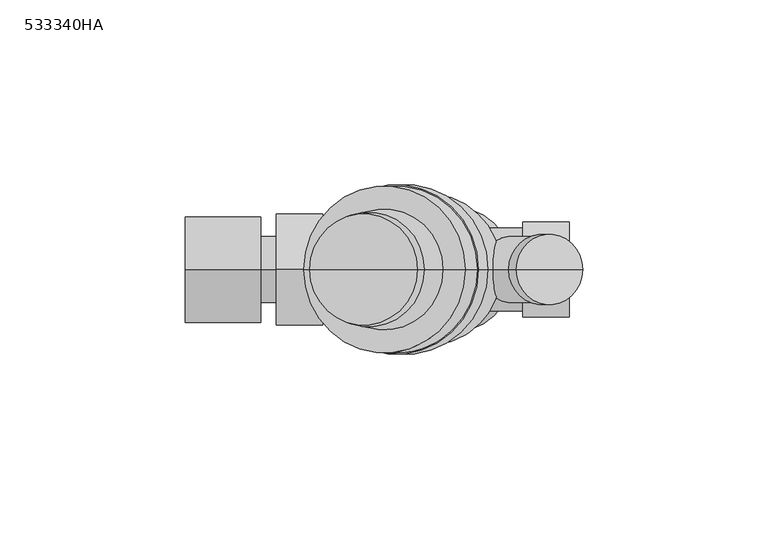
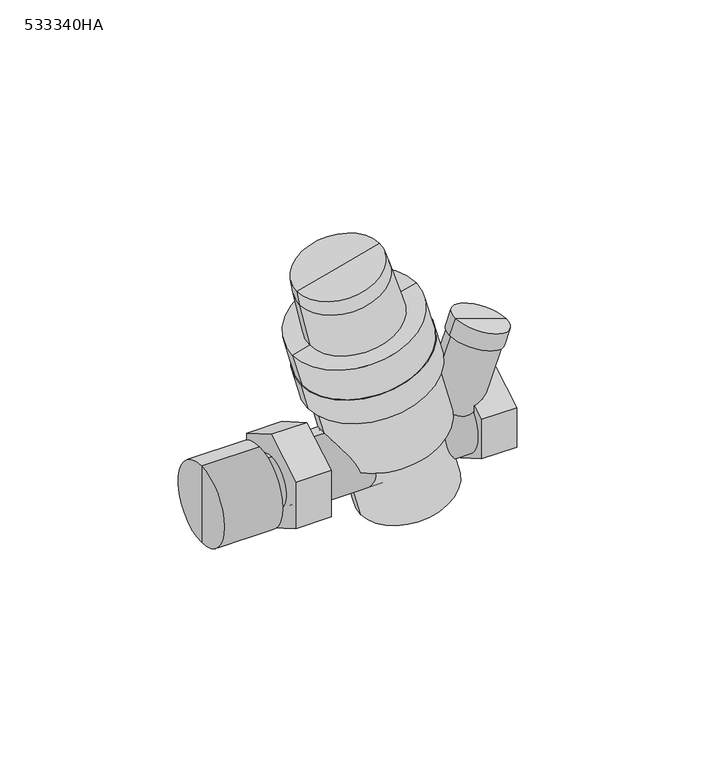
"""IFC4 building model written with IfcOpenShell, lengths in millimetres: valve geometry, Plumbing_Valves_Caleffi_Pressure_ Reducing_ Valve-533HA-DN15_DN20 : 533340HA."""

import ifcopenshell
import ifcopenshell.guid

model = None  # the IFC model being written
_history = None  # IfcOwnerHistory: only IFC2X3 demands one
_inside = {}  # id of a spatial element -> (the spatial element, [elements in it])
_under = {}  # id of a project, library or spatial element -> (it, [spatial elements below it])
_declared = {}  # id of a project -> (the project, [libraries it declares])
_typed = {}  # id of a type object -> (the type object, [elements of that type])
_made_of = {}  # id of a material, layer set ... -> (it, [elements and type objects made of it])


def new_model(schema):
    """Start an empty IFC model of exactly this schema.

    Asked for "IFC4X3", IfcOpenShell would pick the latest addendum, in which some entities
    have other attributes; the version numbers below select the first issue.
    IFC2X3 requires an IfcOwnerHistory on every rooted entity: one is made here for all.
    """
    global model, _history
    if schema == "IFC4X3":
        model = ifcopenshell.file(schema_version=(4, 3, 0, 0))
    else:
        model = ifcopenshell.file(schema=schema)
    _inside.clear()
    _under.clear()
    _declared.clear()
    _typed.clear()
    _made_of.clear()
    _history = None
    if model.schema == "IFC2X3":
        org = make("IfcOrganization", Name="unknown")
        user = make(
            "IfcPersonAndOrganization",
            ThePerson=make("IfcPerson", FamilyName="unknown"),
            TheOrganization=org,
        )
        app = make(
            "IfcApplication",
            ApplicationDeveloper=org,
            Version="unknown",
            ApplicationFullName="unknown",
            ApplicationIdentifier="unknown",
        )
        _history = make(
            "IfcOwnerHistory",
            OwningUser=user,
            OwningApplication=app,
            ChangeAction="ADDED",
            CreationDate=0,
        )
    return model


def make(cls, **values):
    """One entity of the class cls with the attributes given. An attribute that is None is left unset."""
    return model.create_entity(
        cls, **{name: value for name, value in values.items() if value is not None}
    )


def rooted(cls, **values):
    """An entity with a GlobalId (a new one), such as an element, a storey or a relation."""
    return make(cls, GlobalId=ifcopenshell.guid.new(), OwnerHistory=_history, **values)


def si_unit(unit_type, name, prefix=None):
    """IfcSIUnit, for example si_unit("LENGTHUNIT", "METRE", prefix="MILLI")."""
    return make("IfcSIUnit", UnitType=unit_type, Prefix=prefix, Name=name)


def assignment(units):
    """IfcUnitAssignment: the units of a project."""
    return None if units is None else make("IfcUnitAssignment", Units=units)


def point(xyz):
    """IfcCartesianPoint."""
    return None if xyz is None else make("IfcCartesianPoint", Coordinates=xyz)


def direction(xyz):
    """IfcDirection."""
    return None if xyz is None else make("IfcDirection", DirectionRatios=xyz)


def frame(location, z_axis=None, x_axis=None):
    """IfcAxis2Placement3D, a coordinate frame: its origin and axes. An axis left out is left unset."""
    return make(
        "IfcAxis2Placement3D",
        Location=point(location),
        Axis=direction(z_axis),
        RefDirection=direction(x_axis),
    )


def origin():
    """The frame at (0, 0, 0) with its axes left unset."""
    return frame((0.0, 0.0, 0.0))


def place(relative_to, where):
    """IfcLocalPlacement: puts the frame where relative to a parent placement (None: the world)."""
    return make(
        "IfcLocalPlacement", PlacementRelTo=relative_to, RelativePlacement=where
    )


def context(
    kind, dimensions, precision=None, world=None, true_north=None, identifier=None
):
    """IfcGeometricRepresentationContext, for example the 3D "Model" context."""
    return make(
        "IfcGeometricRepresentationContext",
        ContextIdentifier=identifier,
        ContextType=kind,
        CoordinateSpaceDimension=dimensions,
        Precision=precision,
        WorldCoordinateSystem=world,
        TrueNorth=true_north,
    )


def project(units=None, contexts=None):
    """IfcProject with its units and contexts."""
    return rooted(
        "IfcProject",
        Name="project",
        RepresentationContexts=contexts,
        UnitsInContext=assignment(units),
    )


def spatial(cls, under=None, at=None, **own):
    """A site, building, storey or space (cls), placed at a placement, below another one or the project."""
    s = rooted(cls, ObjectPlacement=at, **own)
    if under is not None:
        _under.setdefault(under.id(), (under, []))[1].append(s)
    return s


def polyline(points):
    """IfcPolyline through the points."""
    return make("IfcPolyline", Points=[point(p) for p in points])


def circle_curve(where, radius):
    """IfcCircle in the frame where."""
    return make("IfcCircle", Position=where, Radius=radius)


def outline(outer, holes=None, kind="AREA"):
    """IfcArbitraryClosedProfileDef: a profile drawn as a closed curve; with holes, ...WithVoids."""
    if holes is None:
        return make("IfcArbitraryClosedProfileDef", ProfileType=kind, OuterCurve=outer)
    return make(
        "IfcArbitraryProfileDefWithVoids",
        ProfileType=kind,
        OuterCurve=outer,
        InnerCurves=holes,
    )


def extrude(swept, where, along, depth):
    """IfcExtrudedAreaSolid: the profile swept, set in the frame where, extruded along a direction by depth."""
    return make(
        "IfcExtrudedAreaSolid",
        SweptArea=swept,
        Position=where,
        ExtrudedDirection=direction(along),
        Depth=depth,
    )


def shape(context_of_items, identifier, shape_type, items):
    """IfcShapeRepresentation: the items that make up one representation, for example the "Body"."""
    return make(
        "IfcShapeRepresentation",
        ContextOfItems=context_of_items,
        RepresentationIdentifier=identifier,
        RepresentationType=shape_type,
        Items=items,
    )


def source(mapping_origin, context_of_items, identifier, shape_type, items):
    """IfcRepresentationMap: a shape defined once, which mapped items show again and again."""
    return make(
        "IfcRepresentationMap",
        MappingOrigin=mapping_origin,
        MappedRepresentation=shape(context_of_items, identifier, shape_type, items),
    )


def transform(
    local_origin,
    x_axis=None,
    y_axis=None,
    z_axis=None,
    scale=None,
    scale2=None,
    scale3=None,
    uniform=True,
):
    """IfcCartesianTransformationOperator3D, or its non-uniform kind. x_axis, y_axis, z_axis: its Axis1, 2, 3."""
    if uniform:
        return make(
            "IfcCartesianTransformationOperator3D",
            Axis1=direction(x_axis),
            Axis2=direction(y_axis),
            LocalOrigin=point(local_origin),
            Scale=scale,
            Axis3=direction(z_axis),
        )
    return make(
        "IfcCartesianTransformationOperator3DnonUniform",
        Axis1=direction(x_axis),
        Axis2=direction(y_axis),
        LocalOrigin=point(local_origin),
        Scale=scale,
        Axis3=direction(z_axis),
        Scale2=scale2,
        Scale3=scale3,
    )


def mapped(mapping_source, mapping_target):
    """IfcMappedItem: shows the shape of a source again, moved by a transform."""
    return make(
        "IfcMappedItem", MappingSource=mapping_source, MappingTarget=mapping_target
    )


def made_of(thing, what):
    """Note that an element or type object is made of a material, layer set ...; save() writes the relation."""
    if what is not None:
        _made_of.setdefault(what.id(), (what, []))[1].append(thing)
    return thing


def element(
    cls,
    number,
    at=None,
    inside=None,
    cuts=None,
    type_object=None,
    material=None,
    context=None,
    identifier="Body",
    shape_type=None,
    held_by="IfcProductDefinitionShape",
    body=None,
    shapes=None,
    **own,
):
    """One element of the class cls, such as IfcWall. Its Tag is "e" and its number.

    at: its placement. inside: the storey or other place that contains it. cuts: it is an
    opening in that element (IfcRelVoidsElement). A single representation is given by context,
    identifier, shape_type and body (its items); several are given by shapes. held_by: the class
    of the entity that holds the representations. save() writes the other relations.
    """
    e = rooted(cls, Tag="e%d" % number, ObjectPlacement=at, **own)
    if body is not None:
        shapes = [shape(context, identifier, shape_type, body)]
    if shapes is not None:
        e.Representation = make(held_by, Representations=shapes)
    if inside is not None:
        _inside.setdefault(inside.id(), (inside, []))[1].append(e)
    if cuts is not None:
        rooted(
            "IfcRelVoidsElement", RelatingBuildingElement=cuts, RelatedOpeningElement=e
        )
    if type_object is not None:
        _typed.setdefault(type_object.id(), (type_object, []))[1].append(e)
    return made_of(e, material)


def aggregate(whole, parts):
    """IfcRelAggregates: a whole, such as a stair, and the parts it consists of."""
    return rooted("IfcRelAggregates", RelatingObject=whole, RelatedObjects=parts)


def save(model, path):
    """Write the relations noted so far, then the file.

    IfcRelAggregates (storeys below a building ...), IfcRelContainedInSpatialStructure (elements
    in a storey), IfcRelDefinesByType, IfcRelAssociatesMaterial and IfcRelDeclares: one each for
    every whole, place, type object, material and project.
    """
    for whole, parts in _under.values():
        aggregate(whole, parts)
    for where, things in _inside.values():
        rooted(
            "IfcRelContainedInSpatialStructure",
            RelatedElements=things,
            RelatingStructure=where,
        )
    for kind, things in _typed.values():
        rooted("IfcRelDefinesByType", RelatedObjects=things, RelatingType=kind)
    for what, things in _made_of.values():
        rooted("IfcRelAssociatesMaterial", RelatedObjects=things, RelatingMaterial=what)
    for by, libraries in _declared.values():
        rooted("IfcRelDeclares", RelatingContext=by, RelatedDefinitions=libraries)
    model.write(path)


def plane_surface(at):
    """IfcPlane: the flat surface through the origin of the frame at, square to its z axis."""
    return make("IfcPlane", Position=at)


def cylinder_surface(at, radius):
    """IfcCylindricalSurface: all points at the distance radius from the z axis of the frame at."""
    return make("IfcCylindricalSurface", Position=at, Radius=radius)


def revolved_surface(curve, axis_point, axis_direction):
    """IfcSurfaceOfRevolution: the curve turned about the line through axis_point along axis_direction."""
    return make(
        "IfcSurfaceOfRevolution",
        SweptCurve=make("IfcArbitraryOpenProfileDef", ProfileType="CURVE", Curve=curve),
        AxisPosition=make("IfcAxis1Placement", Location=point(axis_point), Axis=direction(axis_direction)),
    )


def advanced_brep(points, edges, surfaces, faces):
    """IfcAdvancedBrep: a solid bounded by faces that lie on surfaces and meet in shared edges.

    An edge is (start, end): straight between two places in points (the first is 0);
    or (start, end, curve); or (start, end, curve, False) where it runs against its curve.
    A face is (place in surfaces, loops), or (place, loops, False) where it looks against
    its surface's normal. A loop lists edges by number (the first is 1), with a minus sign
    where the edge is run from its end to its start. The first loop is the outer one.
    """
    corners = [point(p) for p in points]
    vertices = [make("IfcVertexPoint", VertexGeometry=c) for c in corners]
    made = []
    for start, end, *more in edges:
        made.append(
            make(
                "IfcEdgeCurve",
                EdgeStart=vertices[start],
                EdgeEnd=vertices[end],
                EdgeGeometry=more[0] if more else make("IfcPolyline", Points=[corners[start], corners[end]]),
                SameSense=more[1] if len(more) > 1 else True,
            )
        )
    hull = []
    for where, loops, *sense in faces:
        bounds = []
        for j, loop in enumerate(loops):
            ring = [make("IfcOrientedEdge", EdgeElement=made[abs(k) - 1], Orientation=k > 0) for k in loop]
            bounds.append(
                make(
                    "IfcFaceOuterBound" if j == 0 else "IfcFaceBound",
                    Bound=make("IfcEdgeLoop", EdgeList=ring),
                    Orientation=True,
                )
            )
        hull.append(make("IfcAdvancedFace", Bounds=bounds, FaceSurface=surfaces[where], SameSense=sense[0] if sense else True))
    return make("IfcAdvancedBrep", Outer=make("IfcClosedShell", CfsFaces=hull))


def valve_533340ha_4125cb04(model_context):
    return source(origin(), model_context, "Body", "SolidModel", [
        advanced_brep(
        [(-46.8, 0.0, -8.95), (-46.8, 0.0, 8.95), (-36.6, 0.0, 8.95), (-36.6, 0.0, -8.95), (-46.8, 0.0, -14.25), (-46.8, 0.0, 14.25), (-67.1, 0.0, -14.25), (-67.1, 0.0, 14.25), (-67.1, 0.0, 0.0), (-36.6, 0.0, 0.0)],
        [
            (0, 1, circle_curve(frame((-46.8, 0.0, 0.0), z_axis=(1.0, 0.0, 0.0), x_axis=(0.0, 0.0, 1.0)), 8.95)),
            (1, 2),
            (2, 3, circle_curve(frame((-36.6, 0.0, 0.0), z_axis=(-1.0, 0.0, 0.0), x_axis=(0.0, 0.0, 1.0)), 8.95)),
            (3, 0),
            (1, 0, circle_curve(frame((-46.8, 0.0, 0.0), z_axis=(1.0, 0.0, 0.0), x_axis=(0.0, 0.0, 1.0)), 8.95)),
            (3, 2, circle_curve(frame((-36.6, 0.0, 0.0), z_axis=(-1.0, 0.0, 0.0), x_axis=(0.0, 0.0, 1.0)), 8.95)),
            (4, 5, circle_curve(frame((-46.8, 0.0, 0.0), z_axis=(1.0, 0.0, 0.0), x_axis=(0.0, 0.0, 1.0)), 14.25)),
            (5, 1),
            (0, 4),
            (5, 4, circle_curve(frame((-46.8, 0.0, 0.0), z_axis=(1.0, 0.0, 0.0), x_axis=(0.0, 0.0, 1.0)), 14.25)),
            (6, 7, circle_curve(frame((-67.1, 0.0, 0.0), z_axis=(1.0, 0.0, 0.0), x_axis=(0.0, 0.0, 1.0)), 14.25)),
            (7, 5),
            (4, 6),
            (7, 6, circle_curve(frame((-67.1, 0.0, 0.0), z_axis=(1.0, 0.0, 0.0), x_axis=(0.0, 0.0, 1.0)), 14.25)),
            (8, 7),
            (6, 8),
            (2, 9),
            (9, 3),
        ],
        [
            cylinder_surface(frame((5.0, 0.0, 0.0), z_axis=(-1.0, 0.0, 0.0), x_axis=(0.0, 0.0, 1.0)), 8.95),
            plane_surface(frame((-46.8, 0.0, 0.0), z_axis=(1.0, 0.0, 0.0), x_axis=(0.0, 0.0, 1.0))),
            cylinder_surface(frame((5.0, 0.0, 0.0), z_axis=(-1.0, 0.0, 0.0), x_axis=(0.0, 0.0, 1.0)), 14.25),
            plane_surface(frame((-67.1, 0.0, 0.0), z_axis=(-1.0, 0.0, 0.0), x_axis=(0.0, 0.0, 1.0))),
            plane_surface(frame((-36.6, 0.0, 0.0), z_axis=(1.0, 0.0, 0.0), x_axis=(0.0, 0.0, 1.0))),
        ],
        [
            (0, [[1, 2, 3, 4]]),
            (0, [[5, -4, 6, -2]]),
            (1, [[7, 8, -1, 9]]),
            (1, [[10, -9, -5, -8]]),
            (2, [[11, 12, -7, 13]]),
            (2, [[14, -13, -10, -12]]),
            (3, [[15, -11, 16]]),
            (3, [[-16, -14, -15]]),
            (4, [[-3, 17, 18]]),
            (4, [[-6, -18, -17]]),
        ],
    ),
        extrude(outline(polyline([(0.0, 17.3205081), (15.0, 8.660254), (15.0, -8.660254), (0.0, -17.3205081), (-15.0, -8.660254), (-15.0, 8.660254), (0.0, 17.3205081)])), frame((-42.6, 0.0, 0.0), z_axis=(1.0, 0.0, 0.0), x_axis=(0.0, 1.0, 0.0)), (0.0, 0.0, 1.0), 12.5),
        extrude(outline(polyline([(0.0, 14.7224319), (12.75, 7.3612159), (12.75, -7.3612159), (0.0, -14.7224319), (-12.75, -7.3612159), (-12.75, 7.3612159), (0.0, 14.7224319)])), frame((23.9, 0.0, 0.0), z_axis=(1.0, 0.0, 0.0), x_axis=(0.0, 1.0, 0.0)), (0.0, 0.0, 1.0), 12.5),
        advanced_brep(
        [(-34.6, 0.0, -11.25), (-34.6, 0.0, 11.25), (23.9, 0.0, 11.25), (23.9, 0.0, -11.25), (-34.6, 0.0, 0.0), (23.9, 0.0, 0.0)],
        [
            (0, 1, circle_curve(frame((-34.6, 0.0, 0.0), z_axis=(1.0, 0.0, 0.0), x_axis=(0.0, 0.0, 1.0)), 11.25)),
            (1, 2),
            (2, 3, circle_curve(frame((23.9, 0.0, 0.0), z_axis=(-1.0, 0.0, 0.0), x_axis=(0.0, 0.0, 1.0)), 11.25)),
            (3, 0),
            (1, 0, circle_curve(frame((-34.6, 0.0, 0.0), z_axis=(1.0, 0.0, 0.0), x_axis=(0.0, 0.0, 1.0)), 11.25)),
            (3, 2, circle_curve(frame((23.9, 0.0, 0.0), z_axis=(-1.0, 0.0, 0.0), x_axis=(0.0, 0.0, 1.0)), 11.25)),
            (4, 1),
            (0, 4),
            (2, 5),
            (5, 3),
        ],
        [
            cylinder_surface(frame((-36.6776223, 0.0, 0.0), z_axis=(-1.0, 0.0, 0.0), x_axis=(0.0, 0.0, 1.0)), 11.25),
            plane_surface(frame((-34.6, 0.0, 0.0), z_axis=(-1.0, 0.0, 0.0), x_axis=(0.0, 0.0, 1.0))),
            plane_surface(frame((23.9, 0.0, 0.0), z_axis=(1.0, 0.0, 0.0), x_axis=(0.0, 0.0, 1.0))),
        ],
        [
            (0, [[1, 2, 3, 4]]),
            (0, [[5, -4, 6, -2]]),
            (1, [[7, -1, 8]]),
            (1, [[-8, -5, -7]]),
            (2, [[-3, 9, 10]]),
            (2, [[-6, -10, -9]]),
        ],
    ),
        advanced_brep(
        [(29.0, 0.0, 29.0), (20.0729201, 0.0, 32.2491914), (37.9270799, 0.0, 25.7508086), (39.9792008, 0.0, 31.3889644), (22.125041, 0.0, 37.8873471), (31.0521209, 0.0, 34.6381557)],
        [
            (0, 1),
            (1, 2, circle_curve(frame((29.0, 0.0, 29.0), z_axis=(-0.34202014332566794, 0.0, -0.9396926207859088), x_axis=(-0.9396926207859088, 0.0, 0.34202014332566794)), 9.5)),
            (2, 0),
            (2, 1, circle_curve(frame((29.0, 0.0, 29.0), z_axis=(-0.34202014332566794, 0.0, -0.9396926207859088), x_axis=(-0.9396926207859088, 0.0, 0.34202014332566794)), 9.5)),
            (3, 4, circle_curve(frame((31.0521209, 0.0, 34.6381557), z_axis=(0.34202014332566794, 0.0, 0.9396926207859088), x_axis=(-0.9396926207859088, 0.0, 0.34202014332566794)), 9.5)),
            (4, 5),
            (5, 3),
            (4, 3, circle_curve(frame((31.0521209, 0.0, 34.6381557), z_axis=(0.34202014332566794, 0.0, 0.9396926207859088), x_axis=(-0.9396926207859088, 0.0, 0.34202014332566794)), 9.5)),
            (1, 4),
            (3, 2),
        ],
        [
            plane_surface(frame((29.0, 0.0, 29.0), z_axis=(-0.34202014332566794, 0.0, -0.9396926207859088), x_axis=(-0.9396926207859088, 0.0, 0.34202014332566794))),
            plane_surface(frame((31.0521209, 0.0, 34.6381557), z_axis=(0.34202014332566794, 0.0, 0.9396926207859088), x_axis=(-0.9396926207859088, 0.0, 0.34202014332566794))),
            cylinder_surface(frame((34.0598055, 0.0, 42.9017015), z_axis=(-0.34202014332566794, 0.0, -0.9396926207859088), x_axis=(-0.9396926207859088, 0.0, 0.34202014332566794)), 9.5),
        ],
        [
            (0, [[1, 2, 3]]),
            (0, [[-3, 4, -1]]),
            (1, [[5, 6, 7]]),
            (1, [[8, -7, -6]]),
            (2, [[-2, 9, -5, 10]]),
            (2, [[-4, -10, -8, -9]]),
        ],
    ),
        advanced_brep(
        [(-10.1974704, 0.0, 38.0574776), (-31.9308015, 0.0, 32.234049), (11.5358607, 0.0, 43.8809061), (-4.5860762, 0.0, 75.0710191), (-33.563851, 0.0, 67.3064477), (-19.0749636, 0.0, 71.1887334), (-2.7313724, 0.0, 70.0810217), (-32.675073, 0.0, 62.0576313), (2.2894681, 0.0, 54.2407673), (-29.1031212, 0.0, 45.8291483), (8.3265046, 0.0, 55.8583863), (-35.1401576, 0.0, 44.2115293)],
        [
            (0, 1),
            (1, 2, circle_curve(frame((-10.1974704, 0.0, 38.0574776), z_axis=(0.2588190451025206, 0.0, -0.9659258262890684), x_axis=(-0.9659258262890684, 0.0, -0.2588190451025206)), 22.5)),
            (2, 0),
            (2, 1, circle_curve(frame((-10.1974704, 0.0, 38.0574776), z_axis=(0.2588190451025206, 0.0, -0.9659258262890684), x_axis=(-0.9659258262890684, 0.0, -0.2588190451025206)), 22.5)),
            (3, 4, circle_curve(frame((-19.0749636, 0.0, 71.1887334), z_axis=(-0.2588190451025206, 0.0, 0.9659258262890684), x_axis=(-0.9659258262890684, 0.0, -0.2588190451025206)), 15.0)),
            (4, 5),
            (5, 3),
            (4, 3, circle_curve(frame((-19.0749636, 0.0, 71.1887334), z_axis=(-0.2588190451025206, 0.0, 0.9659258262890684), x_axis=(-0.9659258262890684, 0.0, -0.2588190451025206)), 15.0)),
            (6, 7, circle_curve(frame((-17.7032227, 0.0, 66.0693265), z_axis=(-0.2588190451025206, 0.0, 0.9659258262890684), x_axis=(-0.9659258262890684, 0.0, -0.2588190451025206)), 15.5)),
            (7, 4),
            (3, 6),
            (7, 6, circle_curve(frame((-17.7032227, 0.0, 66.0693265), z_axis=(-0.2588190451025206, 0.0, 0.9659258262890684), x_axis=(-0.9659258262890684, 0.0, -0.2588190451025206)), 15.5)),
            (8, 9, circle_curve(frame((-13.4068265, 0.0, 50.0349578), z_axis=(-0.2588190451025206, 0.0, 0.9659258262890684), x_axis=(-0.9659258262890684, 0.0, -0.2588190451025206)), 16.25)),
            (9, 7),
            (6, 8),
            (9, 8, circle_curve(frame((-13.4068265, 0.0, 50.0349578), z_axis=(-0.2588190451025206, 0.0, 0.9659258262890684), x_axis=(-0.9659258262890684, 0.0, -0.2588190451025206)), 16.25)),
            (10, 11, circle_curve(frame((-13.4068265, 0.0, 50.0349578), z_axis=(-0.2588190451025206, 0.0, 0.9659258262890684), x_axis=(-0.9659258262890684, 0.0, -0.2588190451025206)), 22.5)),
            (11, 9),
            (8, 10),
            (11, 10, circle_curve(frame((-13.4068265, 0.0, 50.0349578), z_axis=(-0.2588190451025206, 0.0, 0.9659258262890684), x_axis=(-0.9659258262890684, 0.0, -0.2588190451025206)), 22.5)),
            (1, 11),
            (10, 2),
        ],
        [
            plane_surface(frame((-10.1974704, 0.0, 38.0574776), z_axis=(0.2588190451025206, 0.0, -0.9659258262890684), x_axis=(-0.9659258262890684, 0.0, -0.2588190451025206))),
            plane_surface(frame((-19.0749636, 0.0, 71.1887334), z_axis=(-0.2588190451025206, 0.0, 0.9659258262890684), x_axis=(-0.9659258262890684, 0.0, -0.2588190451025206))),
            revolved_surface(polyline([(-33.563851, 0.0, 67.3064477), (-32.675073, 0.0, 62.0576313)]), (-18.1173332, 0.0, 67.6148078), (0.2588190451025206, 0.0, -0.9659258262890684)),
            revolved_surface(polyline([(-32.675073, 0.0, 62.0576313), (-29.1031212, 0.0, 45.8291483)]), (-18.1173332, 0.0, 67.6148078), (0.2588190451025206, 0.0, -0.9659258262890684)),
            plane_surface(frame((-13.4068265, 0.0, 50.0349578), z_axis=(-0.2588190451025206, 0.0, 0.9659258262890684), x_axis=(-0.9659258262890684, 0.0, -0.2588190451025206))),
            cylinder_surface(frame((-18.1173332, 0.0, 67.6148078), z_axis=(0.2588190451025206, 0.0, -0.9659258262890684), x_axis=(-0.9659258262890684, 0.0, -0.2588190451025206)), 22.5),
        ],
        [
            (0, [[1, 2, 3]]),
            (0, [[-3, 4, -1]]),
            (1, [[5, 6, 7]]),
            (1, [[8, -7, -6]]),
            (2, [[9, 10, -5, 11]]),
            (2, [[12, -11, -8, -10]]),
            (3, [[13, 14, -9, 15]]),
            (3, [[16, -15, -12, -14]]),
            (4, [[17, 18, -13, 19]]),
            (4, [[20, -19, -16, -18]]),
            (5, [[-2, 21, -17, 22]]),
            (5, [[-4, -22, -20, -21]]),
        ],
    ),
        advanced_brep(
        [(29.0, 0.0, 29.0), (37.4572336, 0.0, 25.9218187), (20.5427664, 0.0, 32.0781813), (7.9535361, 0.0, -2.5104447), (24.8680033, 0.0, -8.6668073), (16.4107697, 0.0, -5.588626)],
        [
            (0, 1),
            (1, 2, circle_curve(frame((29.0, 0.0, 29.0), z_axis=(0.3420201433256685, 0.0, 0.9396926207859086), x_axis=(0.9396926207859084, 0.0, -0.34202014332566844)), 9.0)),
            (2, 0),
            (2, 1, circle_curve(frame((29.0, 0.0, 29.0), z_axis=(0.3420201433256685, 0.0, 0.9396926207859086), x_axis=(0.9396926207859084, 0.0, -0.34202014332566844)), 9.0)),
            (3, 4, circle_curve(frame((16.4107697, 0.0, -5.588626), z_axis=(-0.3420201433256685, 0.0, -0.9396926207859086), x_axis=(0.9396926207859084, 0.0, -0.34202014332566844)), 9.0)),
            (4, 5),
            (5, 3),
            (4, 3, circle_curve(frame((16.4107697, 0.0, -5.588626), z_axis=(-0.3420201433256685, 0.0, -0.9396926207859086), x_axis=(0.9396926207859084, 0.0, -0.34202014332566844)), 9.0)),
            (1, 4),
            (3, 2),
        ],
        [
            plane_surface(frame((29.0, 0.0, 29.0), z_axis=(0.3420201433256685, 0.0, 0.9396926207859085), x_axis=(0.9396926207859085, 0.0, -0.3420201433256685))),
            plane_surface(frame((16.4107697, 0.0, -5.588626), z_axis=(-0.3420201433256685, 0.0, -0.9396926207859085), x_axis=(0.9396926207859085, 0.0, -0.3420201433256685))),
            cylinder_surface(frame((36.0557835, 0.0, 48.3856058), z_axis=(0.34202014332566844, 0.0, 0.9396926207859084), x_axis=(0.9396926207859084, 0.0, -0.34202014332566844)), 9.0),
        ],
        [
            (0, [[1, 2, 3]]),
            (0, [[-3, 4, -1]]),
            (1, [[5, 6, 7]]),
            (1, [[8, -7, -6]]),
            (2, [[-2, 9, -5, 10]]),
            (2, [[-4, -10, -8, -9]]),
        ],
    ),
        advanced_brep(
        [(5.0728533, 0.0, -18.9321462), (-11.2512932, 0.0, -23.3061881), (21.3969997, 0.0, -14.5581043), (11.8739348, 0.0, 43.9714927), (-32.2688755, 0.0, 32.1434624), (-10.1974704, 0.0, 38.0574776), (14.4621252, 0.0, 34.3122345), (-29.6806851, 0.0, 22.4842041), (12.0473106, 0.0, 33.6651869), (-27.2658705, 0.0, 23.1312517), (18.1295582, 0.0, 10.9659299), (-21.1836229, 0.0, 0.4319948), (14.7971141, 0.0, 10.0730042), (-17.8511788, 0.0, 1.3249205)],
        [
            (0, 1),
            (1, 2, circle_curve(frame((5.0728533, 0.0, -18.9321462), z_axis=(0.2588190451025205, 0.0, -0.9659258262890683), x_axis=(-0.9659258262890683, 0.0, -0.2588190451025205)), 16.9)),
            (2, 0),
            (2, 1, circle_curve(frame((5.0728533, 0.0, -18.9321462), z_axis=(0.2588190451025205, 0.0, -0.9659258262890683), x_axis=(-0.9659258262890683, 0.0, -0.2588190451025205)), 16.9)),
            (3, 4, circle_curve(frame((-10.1974704, 0.0, 38.0574776), z_axis=(-0.2588190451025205, 0.0, 0.9659258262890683), x_axis=(-0.9659258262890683, 0.0, -0.2588190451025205)), 22.85)),
            (4, 5),
            (5, 3),
            (4, 3, circle_curve(frame((-10.1974704, 0.0, 38.0574776), z_axis=(-0.2588190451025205, 0.0, 0.9659258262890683), x_axis=(-0.9659258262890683, 0.0, -0.2588190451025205)), 22.85)),
            (6, 7, circle_curve(frame((-7.6092799, 0.0, 28.3982193), z_axis=(-0.2588190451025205, 0.0, 0.9659258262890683), x_axis=(-0.9659258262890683, 0.0, -0.2588190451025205)), 22.85)),
            (7, 4),
            (3, 6),
            (7, 6, circle_curve(frame((-7.6092799, 0.0, 28.3982193), z_axis=(-0.2588190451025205, 0.0, 0.9659258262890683), x_axis=(-0.9659258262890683, 0.0, -0.2588190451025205)), 22.85)),
            (8, 9, circle_curve(frame((-7.6092799, 0.0, 28.3982193), z_axis=(-0.2588190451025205, 0.0, 0.9659258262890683), x_axis=(-0.9659258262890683, 0.0, -0.2588190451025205)), 20.35)),
            (9, 7),
            (6, 8),
            (9, 8, circle_curve(frame((-7.6092799, 0.0, 28.3982193), z_axis=(-0.2588190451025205, 0.0, 0.9659258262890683), x_axis=(-0.9659258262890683, 0.0, -0.2588190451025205)), 20.35)),
            (10, 11, circle_curve(frame((-1.5270324, 0.0, 5.6989624), z_axis=(-0.2588190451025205, 0.0, 0.9659258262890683), x_axis=(-0.9659258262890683, 0.0, -0.2588190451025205)), 20.35)),
            (11, 9),
            (8, 10),
            (11, 10, circle_curve(frame((-1.5270324, 0.0, 5.6989624), z_axis=(-0.2588190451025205, 0.0, 0.9659258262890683), x_axis=(-0.9659258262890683, 0.0, -0.2588190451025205)), 20.35)),
            (12, 13, circle_curve(frame((-1.5270324, 0.0, 5.6989624), z_axis=(-0.2588190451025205, 0.0, 0.9659258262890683), x_axis=(-0.9659258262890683, 0.0, -0.2588190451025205)), 16.9)),
            (13, 11),
            (10, 12),
            (13, 12, circle_curve(frame((-1.5270324, 0.0, 5.6989624), z_axis=(-0.2588190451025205, 0.0, 0.9659258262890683), x_axis=(-0.9659258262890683, 0.0, -0.2588190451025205)), 16.9)),
            (1, 13),
            (12, 2),
        ],
        [
            plane_surface(frame((5.0728533, 0.0, -18.9321462), z_axis=(0.2588190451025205, 0.0, -0.9659258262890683), x_axis=(-0.9659258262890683, 0.0, -0.2588190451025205))),
            plane_surface(frame((-10.1974704, 0.0, 38.0574776), z_axis=(-0.2588190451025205, 0.0, 0.9659258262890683), x_axis=(-0.9659258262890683, 0.0, -0.2588190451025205))),
            cylinder_surface(frame((0.0, 0.0, 0.0), z_axis=(0.2588190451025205, 0.0, -0.9659258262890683), x_axis=(-0.9659258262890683, 0.0, -0.2588190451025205)), 22.85),
            plane_surface(frame((-7.6092799, 0.0, 28.3982193), z_axis=(0.2588190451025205, 0.0, -0.9659258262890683), x_axis=(-0.9659258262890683, 0.0, -0.2588190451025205))),
            cylinder_surface(frame((0.0, 0.0, 0.0), z_axis=(0.2588190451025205, 0.0, -0.9659258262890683), x_axis=(-0.9659258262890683, 0.0, -0.2588190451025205)), 20.35),
            plane_surface(frame((-1.5270324, 0.0, 5.6989624), z_axis=(0.2588190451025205, 0.0, -0.9659258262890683), x_axis=(-0.9659258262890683, 0.0, -0.2588190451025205))),
            cylinder_surface(frame((0.0, 0.0, 0.0), z_axis=(0.2588190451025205, 0.0, -0.9659258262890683), x_axis=(-0.9659258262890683, 0.0, -0.2588190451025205)), 16.9),
        ],
        [
            (0, [[1, 2, 3]]),
            (0, [[-3, 4, -1]]),
            (1, [[5, 6, 7]]),
            (1, [[8, -7, -6]]),
            (2, [[9, 10, -5, 11]]),
            (2, [[12, -11, -8, -10]]),
            (3, [[13, 14, -9, 15]]),
            (3, [[16, -15, -12, -14]]),
            (4, [[17, 18, -13, 19]]),
            (4, [[20, -19, -16, -18]]),
            (5, [[21, 22, -17, 23]]),
            (5, [[24, -23, -20, -22]]),
            (6, [[-2, 25, -21, 26]]),
            (6, [[-4, -26, -24, -25]]),
        ],
    ),
    ])


if __name__ == "__main__":
    model = new_model("IFC4")
    model_context = context("Model", 3, world=origin())
    ifc_project = project(units=[si_unit("LENGTHUNIT", "METRE", prefix="MILLI")], contexts=[model_context])
    site = spatial("IfcSite", under=ifc_project)
    building = spatial("IfcBuilding", under=site)
    placement = place(None, origin())
    valve_533340ha_shape = valve_533340ha_4125cb04(model_context)
    element("IfcValve", 1, ObjectType="Plumbing_Valves_Caleffi_Pressure_ Reducing_ Valve-533HA-DN15_DN20 : 533340HA", at=placement, inside=building, context=model_context, shape_type="MappedRepresentation", body=[
        mapped(valve_533340ha_shape, transform((0.0, 0.0, 0.0), x_axis=(1.0, 0.0, 0.0), y_axis=(0.0, 1.0, 0.0), z_axis=(0.0, 0.0, 1.0))),
    ])
    save(model, "model.ifc")
